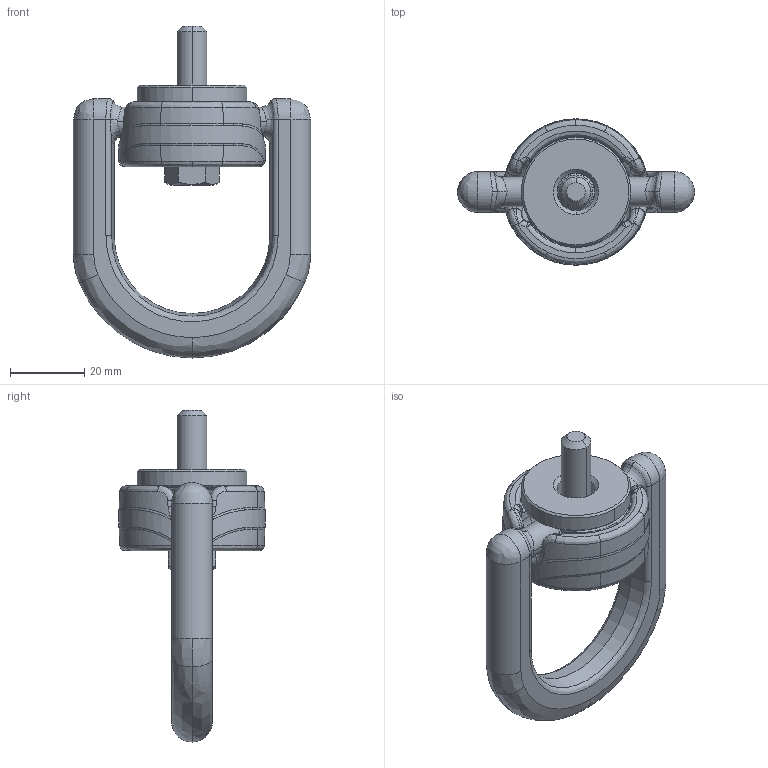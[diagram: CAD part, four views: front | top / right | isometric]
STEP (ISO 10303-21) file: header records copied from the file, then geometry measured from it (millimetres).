
FILE_DESCRIPTION (( 'STEP AP203' ), '1' );
FILE_NAME ('Z101708.step', '2016-04-04T11:05:05', ( '' ), ( '' ), 'SwSTEP 2.0', 'SolidWorks 2008', '' );
FILE_SCHEMA (( 'CONFIG_CONTROL_DESIGN' ));
Length unit declared in the file: millimetre
Products named in the file (6): Z7681208; Z768026_SMITT; Z101708; Z776041; Z768071; Z768657
Assembly tree (5 placements, depth 2):
  Z101708
    Z768657
    Z768026_SMITT
    Z776041
    Z768071
    Z7681208
Bounding box: 64 x 39.5 x 89.6 mm (x, y, z)
Volume: 39034.8 mm3; surface area: 16945.6 mm2
Topology: 5 solids, 5 shells, 397 faces, 946 edges, 562 vertices
Faces by surface type: bspline 244, cylinder 74, plane 51, cone 24, torus 4
Entity records: 28783 total; most frequent: CARTESIAN_POINT 21088, ORIENTED_EDGE 1884, EDGE_CURVE 942, DIRECTION 929, VERTEX_POINT 562, B_SPLINE_CURVE_WITH_KNOTS 439, EDGE_LOOP 408, ADVANCED_FACE 397
